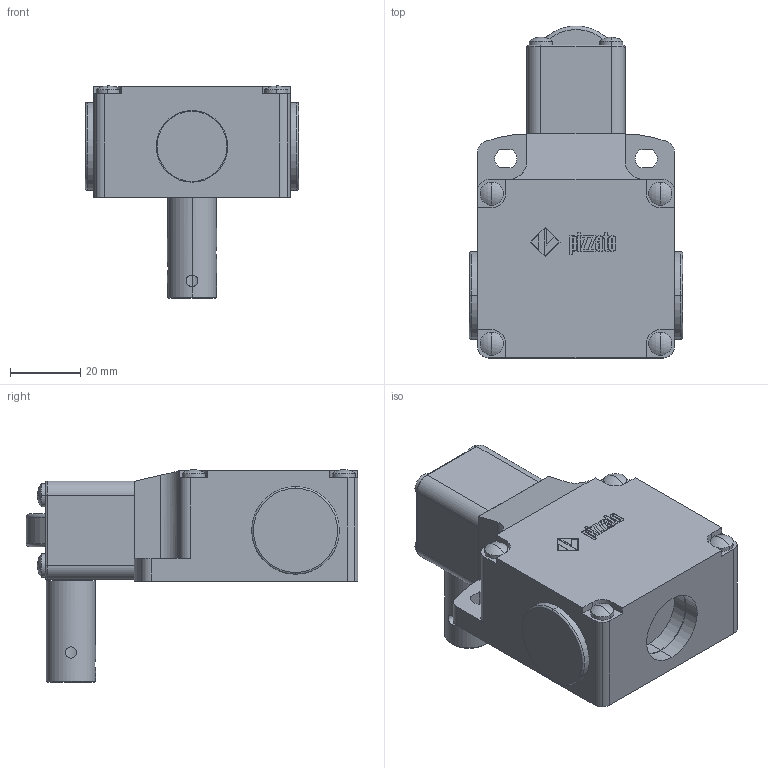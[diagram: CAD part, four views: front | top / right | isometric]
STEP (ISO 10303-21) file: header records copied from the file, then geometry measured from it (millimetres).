
FILE_DESCRIPTION (( 'STEP AP214' ), '1' );
FILE_NAME ('ZF_STEP_FL_x95_A10.step', '2014-04-10T09:07:33', ( 'utente' ), ( 'Microsoft' ), 'SwSTEP 2.0', 'SolidWorks 2013', '' );
FILE_SCHEMA (( 'AUTOMOTIVE_DESIGN' ));
Length unit declared in the file: millimetre
Products named in the file (6): ZF_STEP_VF_T95_A10; Pizzato_1757_1757; Pizzato_Supporto_T95; Pizzato_Tappo_Protezione_PG13_M20_PG13; Pizzato_Custodia_FL; ZF_STEP_FL_x95_A10
Assembly tree (6 placements, depth 3):
  ZF_STEP_FL_x95_A10
    Pizzato_Custodia_FL
    Pizzato_Tappo_Protezione_PG13_M20_PG13  x2
    ZF_STEP_VF_T95_A10
      Pizzato_Supporto_T95
      Pizzato_1757_1757
Bounding box: 60.8 x 94.6 x 60.6 mm (x, y, z)
Volume: 122667 mm3; surface area: 27556.9 mm2
Topology: 5 solids, 5 shells, 455 faces, 1160 edges, 764 vertices
Faces by surface type: plane 249, cylinder 103, bspline 73, sphere 16, torus 10, cone 4
Entity records: 17430 total; most frequent: CARTESIAN_POINT 6665, ORIENTED_EDGE 2288, DIRECTION 1956, EDGE_CURVE 1144, VECTOR 762, LINE 762, VERTEX_POINT 754, AXIS2_PLACEMENT_3D 597
